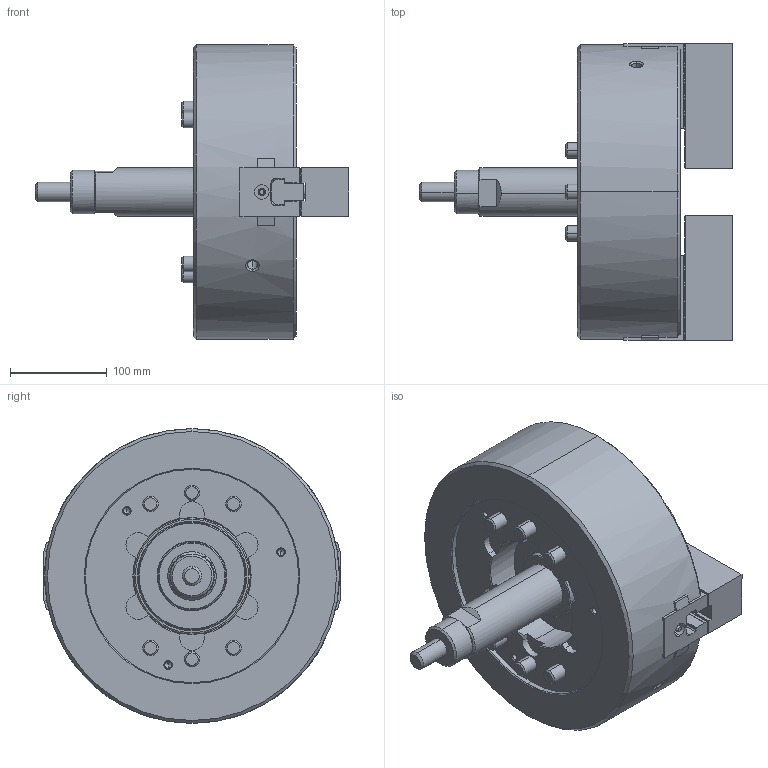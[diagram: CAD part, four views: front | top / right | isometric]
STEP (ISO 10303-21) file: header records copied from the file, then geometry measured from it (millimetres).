
FILE_DESCRIPTION (( 'STEP AP214' ), '1' );
FILE_NAME ('NLT12_UC.STEP', '2019-12-19T06:58:37', ( '' ), ( '' ), 'SwSTEP 2.0', 'SolidWorks 2017', '' );
FILE_SCHEMA (( 'AUTOMOTIVE_DESIGN' ));
Length unit declared in the file: millimetre
Products named in the file (5): 61P314550_ソフトジョー; NLT12_UC; 結合; 0030114045; 61P400941_俿僫僢僩
Assembly tree (9 placements, depth 2):
  NLT12_UC
    61P314550_ソフトジョー  x2
    61P400941_俿僫僢僩  x2
    0030114045  x4
    結合
Bounding box: 323.2 x 306.9 x 304 mm (x, y, z)
Volume: 8002940.1 mm3; surface area: 456588.6 mm2
Topology: 9 solids, 9 shells, 2508 faces, 7047 edges, 4582 vertices
Faces by surface type: plane 2124, cylinder 175, cone 173, torus 36
Entity records: 59751 total; most frequent: CARTESIAN_POINT 11795, ORIENTED_EDGE 10300, DIRECTION 9261, EDGE_CURVE 5150, VECTOR 4451, LINE 4451, VERTEX_POINT 3359, AXIS2_PLACEMENT_3D 2405
